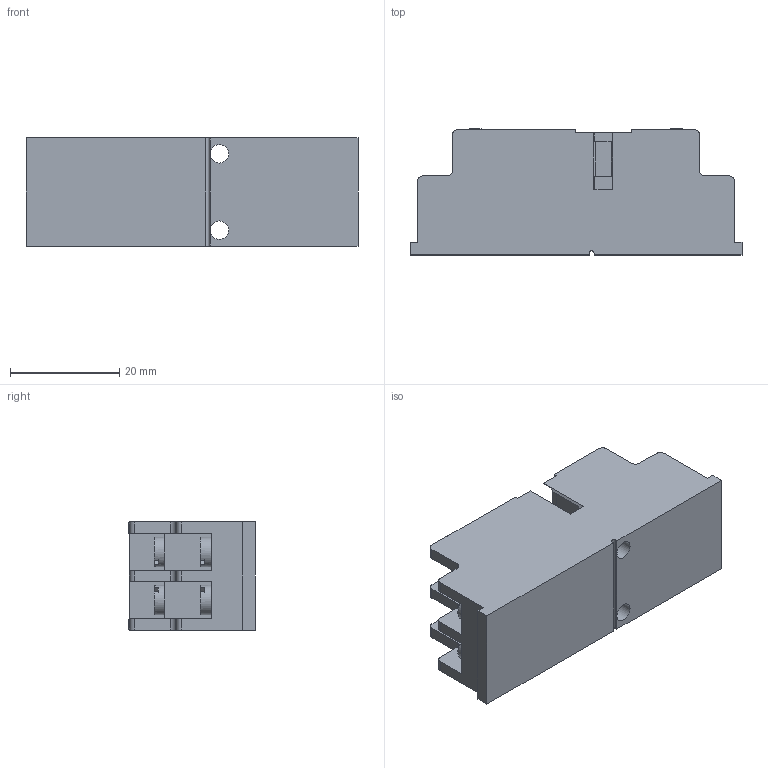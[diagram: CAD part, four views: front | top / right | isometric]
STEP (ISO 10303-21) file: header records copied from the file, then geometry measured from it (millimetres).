
FILE_DESCRIPTION((''),'2;1');
FILE_NAME('I:\TI\Bibliotheek\Inventor\Relais voeten\V10 - V11\V10 - V11 voet solid.stp','2011-05-26T11:45:33',('a.vos'),(''),'Autodesk Inventor 2012','Autodesk Inventor 2012','');
FILE_SCHEMA(('AUTOMOTIVE_DESIGN { 1 0 10303 214 1 1 1 1 }'));
Length unit declared in the file: millimetre
Products named in the file (1): V10 - V11 voet solid
Bounding box: 60.8 x 23.1 x 19.8 mm (x, y, z)
Volume: 20756.3 mm3; surface area: 7471.8 mm2
Topology: 1 solids, 1 shells, 383 faces, 1071 edges, 710 vertices
Faces by surface type: plane 270, bspline 84, cylinder 29
Full cylindrical faces by diameter (mm): 3.4 x2, 5.4 x8
Entity records: 13164 total; most frequent: CARTESIAN_POINT 3466, ORIENTED_EDGE 2106, DIRECTION 1567, EDGE_CURVE 1053, VECTOR 803, LINE 803, VERTEX_POINT 700, EDGE_LOOP 417
